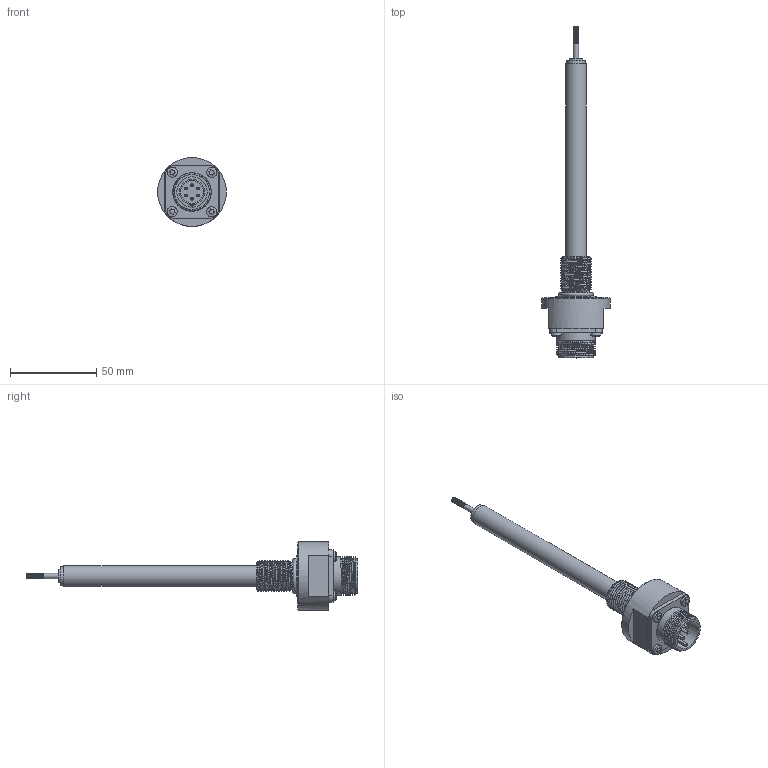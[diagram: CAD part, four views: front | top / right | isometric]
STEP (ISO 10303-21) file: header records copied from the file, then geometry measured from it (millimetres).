
FILE_DESCRIPTION( ( 'STEP AP214' ), '1' );
FILE_NAME( 'N:/Engineering/CAD_Solid/LVDT/HYD/Kunden-3D-Modell/SM25-HYD-18-S.stp', '2011-12-14T13:43:09', ( ' ' ), ( ' ' ), 'XStep 1.0', ' ', ' ' );
FILE_SCHEMA( ( 'CONFIG_CONTROL_DESIGN) ( )' ) );
Length unit declared in the file: metre
Products named in the file (17): 1; 2; 3; 4; 5; 6; 7; 8; 9; 10; 11; 12; 13; 14; 15; 16; 17
Bounding box: 40 x 192.9 x 40 mm (x, y, z)
Volume: 177.7 mm3; surface area: 17567.9 mm2
Topology: 1 solids, 136 shells, 144 faces, 642 edges, 597 vertices
Faces by surface type: plane 81, cylinder 37, bspline 14, cone 7, sphere 4, torus 1
Full cylindrical faces by diameter (mm): 1.6 x6, 2.4 x1, 3 x1, 4 x1, 6 x4, 8 x1, 11 x1, 12 x1, 15.8 x1, 17.6 x1, 20.2 x1, 22.3 x7, 24 x1, 40 x1
Entity records: 18317 total; most frequent: CARTESIAN_POINT 12832, DIRECTION 1032, ORIENTED_EDGE 569, EDGE_CURVE 569, VERTEX_POINT 569, AXIS2_PLACEMENT_3D 383, LINE 266, VECTOR 266
